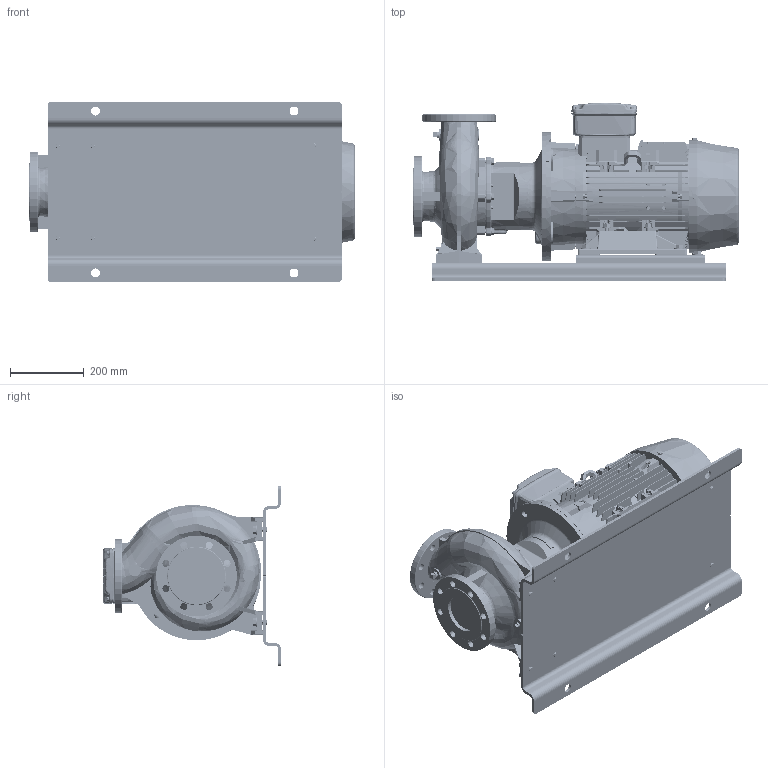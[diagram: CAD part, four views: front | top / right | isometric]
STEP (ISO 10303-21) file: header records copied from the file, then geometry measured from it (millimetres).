
FILE_DESCRIPTION (( 'STEP AP214' ), '1' );
FILE_NAME ('GSD2 80-160_11.0, 15.0 & 18.5_(160ML)_W21_BP.STEP', '2024-08-02T01:56:04', ( '' ), ( '' ), 'SwSTEP 2.0', 'SolidWorks 2019', '' );
FILE_SCHEMA (( 'AUTOMOTIVE_DESIGN' ));
Length unit declared in the file: millimetre
Products named in the file (18): Parametric bolt and washer_SFT-A301B; Parametric bolt and washer_SFT-A299B; 210_254 x 20 - 271472113; 160M_L_ALIE3_W21T_B35; Parametric bolt_SFT-A301B; Parametric bolt_SFT-A299B; N5S3 GSDA-535 F1-1832926-00; Parametric Flat Washer_M12; GSD2  80-160_11.0, 15.0 & 18.5_(160ML)_W21_BP; 80-160-160M_L_______
Assembly tree (35 placements, depth 3):
  GSD2  80-160_11.0, 15.0 & 18.5_(160ML)_W21_BP
    80-160-160M_L_______
    N5S3 GSDA-535 F1-1832926-00
    210_254 x 20 - 271472113  x2
    Parametric bolt and washer_SFT-A299B
      Parametric bolt_SFT-A299B
      Parametric Flat Washer_M12
    Parametric bolt and washer_SFT-A299B
      Parametric bolt_SFT-A299B
      Parametric Flat Washer_M12
    Parametric bolt and washer_SFT-A301B
      Parametric bolt_SFT-A301B
      Parametric Flat Washer_M12
    Parametric bolt and washer_SFT-A301B
      Parametric bolt_SFT-A301B
      Parametric Flat Washer_M12
    Parametric bolt and washer_SFT-A299B
      Parametric bolt_SFT-A299B
      Parametric Flat Washer_M12
    Parametric bolt and washer_SFT-A299B
      Parametric bolt_SFT-A299B
      Parametric Flat Washer_M12
    Parametric bolt and washer_SFT-A301B
      Parametric bolt_SFT-A301B
      Parametric Flat Washer_M12
    Parametric bolt and washer_SFT-A301B
      Parametric bolt_SFT-A301B
      Parametric Flat Washer_M12
    Parametric bolt and washer_SFT-A301B
      Parametric bolt_SFT-A301B
      Parametric Flat Washer_M12
    Parametric bolt and washer_SFT-A301B
      Parametric bolt_SFT-A301B
      Parametric Flat Washer_M12
    160M_L_ALIE3_W21T_B35
Bounding box: 885.3 x 484.53 x 490 mm (x, y, z)
Volume: 51094762.7 mm3; surface area: 3860117.3 mm2
Topology: 54 solids, 60 shells, 6163 faces, 15944 edges, 10321 vertices
Faces by surface type: plane 3715, cylinder 1207, cone 545, bspline 443, torus 237, sphere 16
Entity records: 266719 total; most frequent: CARTESIAN_POINT 81831, ORIENTED_EDGE 29238, DIRECTION 24803, EDGE_CURVE 14619, VERTEX_POINT 9474, LINE 9393, VECTOR 9393, AXIS2_PLACEMENT_3D 7705
